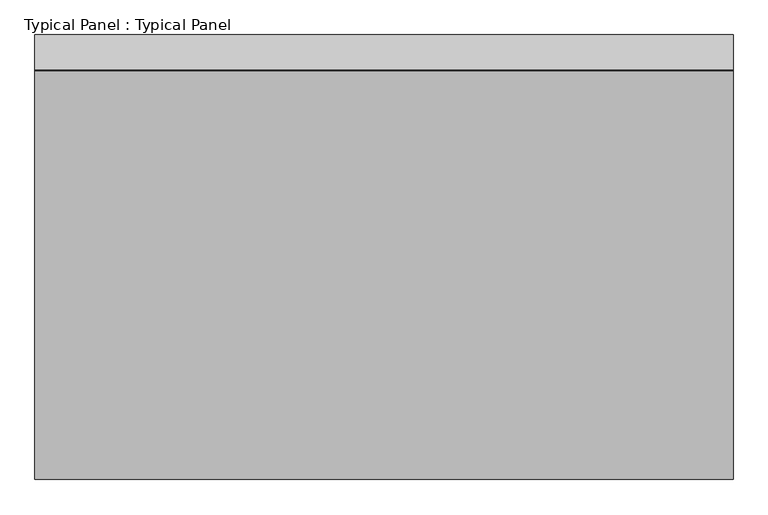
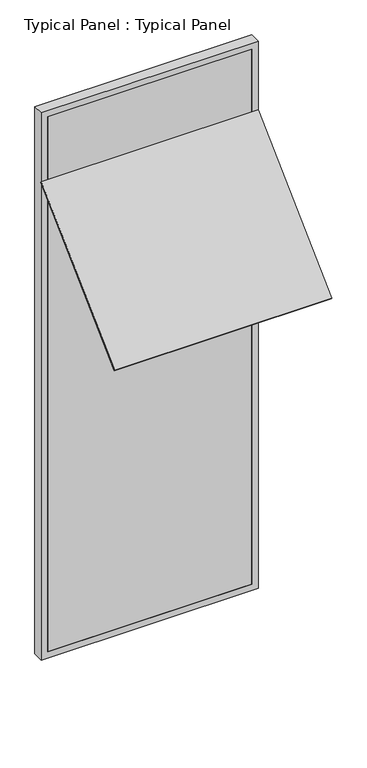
"""IFC4 building model written with IfcOpenShell, lengths in millimetres: plate geometry, Typical Panel : Typical Panel."""

from ifc_helpers import new_model, si_unit, frame, origin, place, context, project, spatial, polyline, outline, extrude, source, transform, mapped, element, save


def typical_panel_typical_panel_ce44b4bb(model_context):
    return source(origin(), model_context, "Body", "SweptSolid", [
        extrude(outline(polyline([(0.0, -1220.0), (0.0, 0.0), (1500.0, 0.0), (1500.0, -1220.0), (0.0, -1220.0)])), frame((750.0, -875.6479727, 2645.32339), z_axis=(0.0, -0.6946583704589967, 0.7193398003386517), x_axis=(-1.0, 0.0, 0.0)), (0.0, 0.0, 1.0), 10.0),
        extrude(outline(polyline([(0.0, -750.0), (0.0, 750.0), (4000.0, 750.0), (4000.0, -750.0), (0.0, -750.0)]), holes=[polyline([(45.0, 705.0), (45.0, -705.0), (3955.0, -705.0), (3955.0, 705.0), (45.0, 705.0)])]), frame((0.0, -1.5797986, 0.0), z_axis=(0.0, 1.0, 0.0), x_axis=(0.0, 0.0, 1.0)), (0.0, 0.0, 1.0), 75.0),
        extrude(outline(polyline([(705.0, -1.5797986), (-705.0, -1.5797986), (-705.0, 13.4202014), (705.0, 13.4202014), (705.0, -1.5797986)])), frame((0.0, 0.0, 45.0), z_axis=(0.0, 0.0, 1.0), x_axis=(1.0, 0.0, 0.0)), (0.0, 0.0, 1.0), 3910.0),
    ])


if __name__ == "__main__":
    model = new_model("IFC4")
    model_context = context("Model", 3, world=origin())
    ifc_project = project(units=[si_unit("LENGTHUNIT", "METRE", prefix="MILLI")], contexts=[model_context])
    site = spatial("IfcSite", under=ifc_project)
    building = spatial("IfcBuilding", under=site)
    placement = place(None, origin())
    typical_panel_typical_panel_shape = typical_panel_typical_panel_ce44b4bb(model_context)
    element("IfcPlate", 1, ObjectType="Typical Panel : Typical Panel", at=placement, inside=building, context=model_context, shape_type="MappedRepresentation", body=[
        mapped(typical_panel_typical_panel_shape, transform((0.0, 0.0, 0.0), x_axis=(1.0, 0.0, 0.0), y_axis=(0.0, 1.0, 0.0), z_axis=(0.0, 0.0, 1.0))),
    ])
    save(model, "model.ifc")
